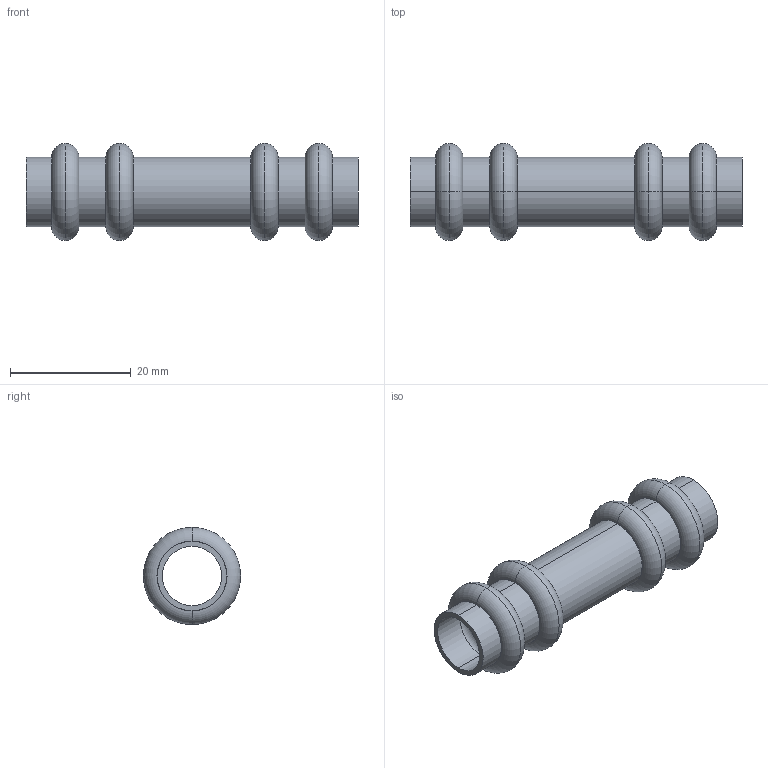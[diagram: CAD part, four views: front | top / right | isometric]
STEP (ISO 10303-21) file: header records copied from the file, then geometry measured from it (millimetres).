
FILE_DESCRIPTION(('starvars output'),'1');
FILE_NAME('cv20240422105142000011916.stp','10:51:42 2024/04/22',('Thomas Industrial Network Germany GmbH'),(' '),'Spatial InterOp 3D',' ',' ');
FILE_SCHEMA(('AUTOMOTIVE_DESIGN { 1 0 10303 214 3 1 1 }'));
Length unit declared in the file: millimetre
Products named in the file (1): 1
Bounding box: 55 x 16.1 x 16.1 mm (x, y, z)
Volume: 2253.7 mm3; surface area: 4971.4 mm2
Topology: 1 solids, 1 shells, 70 faces, 140 edges, 88 vertices
Faces by surface type: torus 32, cylinder 20, plane 18
Entity records: 2464 total; most frequent: DIRECTION 402, CARTESIAN_POINT 299, ORIENTED_EDGE 280, AXIS2_PLACEMENT_3D 191, EDGE_CURVE 140, CIRCLE 120, EDGE_LOOP 88, VERTEX_POINT 88
